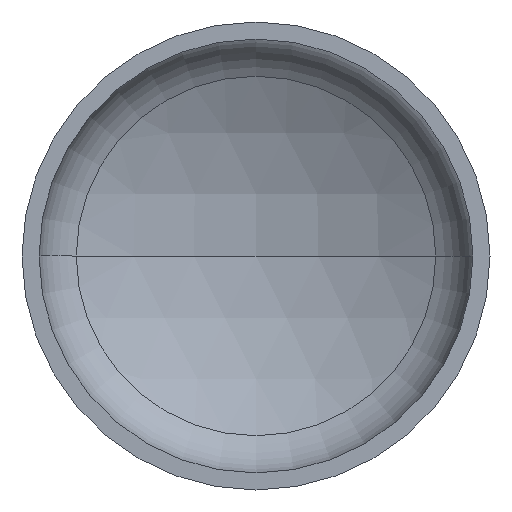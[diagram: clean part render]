
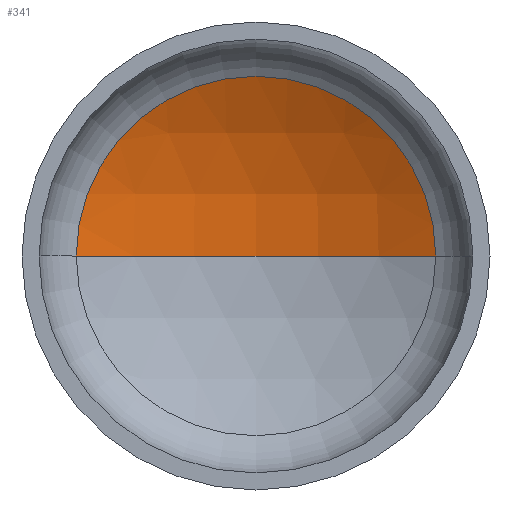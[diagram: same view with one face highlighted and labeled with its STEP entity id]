
A CAD part, front view. The second image highlights one B-rep face of the part: STEP entity #341.
In plain terms, the highlighted spherical face has radius 1360 mm.
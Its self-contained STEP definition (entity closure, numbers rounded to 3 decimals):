
#6 = ORIENTED_EDGE ( 'NONE', *, *, #85, .T. ) ;
#15 = ORIENTED_EDGE ( 'NONE', *, *, #88, .T. ) ;
#19 = DIRECTION ( 'NONE',  ( -1., 0., 0. ) ) ;
#21 = AXIS2_PLACEMENT_3D ( 'NONE', #182, #352, #212 ) ;
#22 = ORIENTED_EDGE ( 'NONE', *, *, #89, .F. ) ;
#25 = DIRECTION ( 'NONE',  ( 0., -1., 0. ) ) ;
#26 = AXIS2_PLACEMENT_3D ( 'NONE', #161, #256, #19 ) ;
#28 = AXIS2_PLACEMENT_3D ( 'NONE', #257, #25, #283 ) ;
#29 = EDGE_LOOP ( 'NONE', ( #22, #15, #6 ) ) ;
#58 = VERTEX_POINT ( 'NONE', #251 ) ;
#77 = VERTEX_POINT ( 'NONE', #200 ) ;
#85 = EDGE_CURVE ( 'NONE', #100, #77, #107, .T. ) ;
#88 = EDGE_CURVE ( 'NONE', #58, #100, #197, .T. ) ;
#89 = EDGE_CURVE ( 'NONE', #58, #77, #375, .T. ) ;
#94 = DIRECTION ( 'NONE',  ( 0., 0., -1. ) ) ;
#100 = VERTEX_POINT ( 'NONE', #303 ) ;
#107 = CIRCLE ( 'NONE', #28, 652.8 ) ;
#118 = CARTESIAN_POINT ( 'NONE',  ( 0., -844.995, 0. ) ) ;
#161 = CARTESIAN_POINT ( 'NONE',  ( 0., -844.995, 0. ) ) ;
#163 = AXIS2_PLACEMENT_3D ( 'NONE', #118, #94, #304 ) ;
#166 = FACE_OUTER_BOUND ( 'NONE', #29, .T. ) ;
#182 = CARTESIAN_POINT ( 'NONE',  ( 0., -844.995, 0. ) ) ;
#197 = CIRCLE ( 'NONE', #26, 1360. ) ;
#200 = CARTESIAN_POINT ( 'NONE',  ( -652.8, 348.09, 0. ) ) ;
#212 = DIRECTION ( 'NONE',  ( 1., 0., 0. ) ) ;
#251 = CARTESIAN_POINT ( 'NONE',  ( 0., 515.005, 0. ) ) ;
#256 = DIRECTION ( 'NONE',  ( 0., 0., -1. ) ) ;
#257 = CARTESIAN_POINT ( 'NONE',  ( 0., 348.09, 0. ) ) ;
#283 = DIRECTION ( 'NONE',  ( 1., 0., 0. ) ) ;
#303 = CARTESIAN_POINT ( 'NONE',  ( 652.8, 348.09, 0. ) ) ;
#304 = DIRECTION ( 'NONE',  ( -1., 0., 0. ) ) ;
#338 = SPHERICAL_SURFACE ( 'NONE', #163, 1360. ) ;
#341 = ADVANCED_FACE ( 'NONE', ( #166 ), #338, .F. ) ;
#352 = DIRECTION ( 'NONE',  ( 0., 0., 1. ) ) ;
#375 = CIRCLE ( 'NONE', #21, 1360. ) ;
